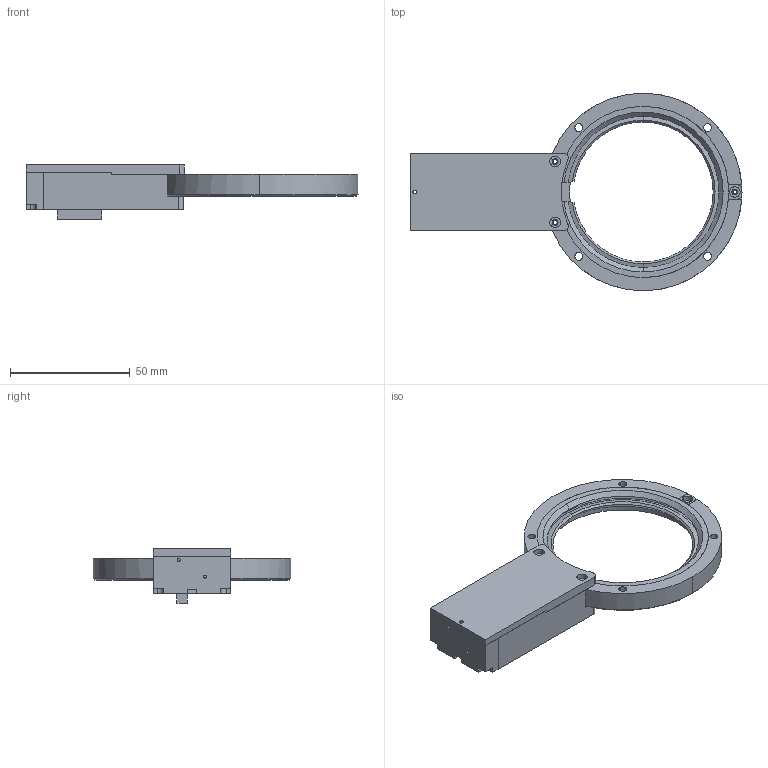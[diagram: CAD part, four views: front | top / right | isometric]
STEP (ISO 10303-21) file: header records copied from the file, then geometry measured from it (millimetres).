
FILE_DESCRIPTION (( 'STEP AP214' ), '1' );
FILE_NAME ('I0024-1002-00-A.STEP', '2025-06-27T05:51:38', ( '' ), ( '' ), 'SwSTEP 2.0', 'SolidWorks 2022', '' );
FILE_SCHEMA (( 'AUTOMOTIVE_DESIGN' ));
Length unit declared in the file: millimetre
Products named in the file (1): I0024-1002-00-A
Bounding box: 138.6 x 82.5 x 22.65 mm (x, y, z)
Surface area: 25887.7 mm2 (no closed solid volume)
Topology: 0 solids, 7 shells, 145 faces, 488 edges, 349 vertices
Faces by surface type: cylinder 64, plane 50, cone 26, bspline 5
Entity records: 6566 total; most frequent: CARTESIAN_POINT 1070, DIRECTION 936, ORIENTED_EDGE 814, EDGE_CURVE 488, VERTEX_POINT 349, AXIS2_PLACEMENT_3D 339, LINE 258, VECTOR 258
